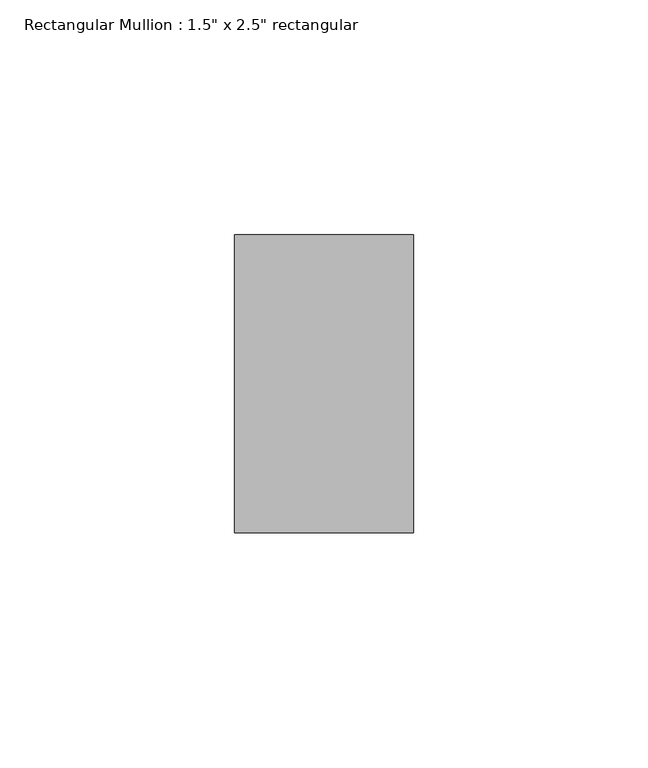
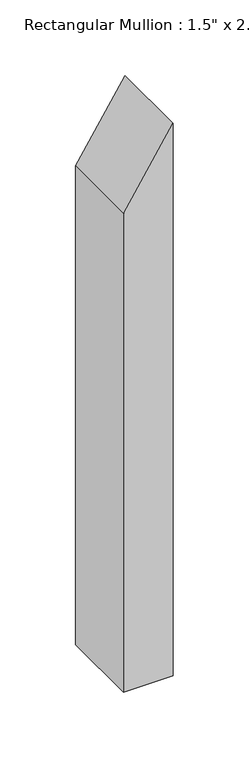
"""IFC4 building model written with IfcOpenShell, lengths in millimetres: member geometry."""

from ifc_helpers import new_model, si_unit, frame, origin, place, context, project, spatial, polyline, outline, extrude, source, transform, mapped, element, save


def member_eb3f8489(model_context):
    return source(origin(), model_context, "Body", "SweptSolid", [
        extrude(outline(polyline([(0.0, 0.0), (-59.6446358, -38.1), (-446.2470006, -38.1), (-446.2470006, 0.0), (0.0, 0.0)])), frame((0.0, -31.75, 0.0), z_axis=(0.0, 1.0, 0.0), x_axis=(0.0, 0.0, 1.0)), (0.0, 0.0, 1.0), 63.5),
    ])


if __name__ == "__main__":
    model = new_model("IFC4")
    model_context = context("Model", 3, world=origin())
    ifc_project = project(units=[si_unit("LENGTHUNIT", "METRE", prefix="MILLI")], contexts=[model_context])
    site = spatial("IfcSite", under=ifc_project)
    building = spatial("IfcBuilding", under=site)
    placement = place(None, origin())
    member_shape = member_eb3f8489(model_context)
    element("IfcMember", 1, ObjectType="Rectangular Mullion : 1.5\" x 2.5\" rectangular", at=placement, inside=building, context=model_context, shape_type="MappedRepresentation", body=[
        mapped(member_shape, transform((0.0, 0.0, 0.0), x_axis=(1.0, 0.0, 0.0), y_axis=(0.0, 1.0, 0.0), z_axis=(0.0, 0.0, 1.0))),
    ])
    save(model, "model.ifc")
